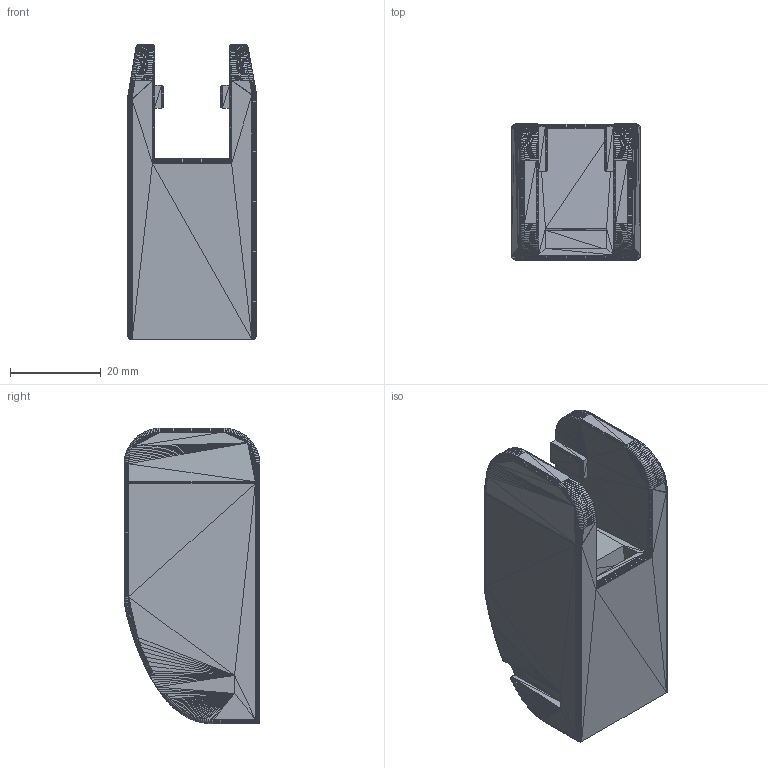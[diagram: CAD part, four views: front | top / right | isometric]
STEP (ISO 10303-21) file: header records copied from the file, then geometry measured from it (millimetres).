
FILE_DESCRIPTION((''),'2;1');
FILE_NAME('Index Finger P2', '2025-03-27T07:44:59', (''), (''), 'ImageToStl.com STEP Converter','', '');
FILE_SCHEMA(('AUTOMOTIVE_DESIGN_CC2'));
Length unit declared in the file: metre
Products named in the file (1): product0
Bounding box: 28.5 x 30 x 65.27 mm (x, y, z)
Surface area: 10675.7 mm2 (no closed solid volume)
Topology: 0 solids, 13254 shells, 13254 faces, 39762 edges, 6629 vertices
Faces by surface type: plane 13254
Entity records: 318135 total; most frequent: DIRECTION 66272, ORIENTED_EDGE 39762, EDGE_CURVE 39762, LINE 39762, VECTOR 39762, AXIS2_PLACEMENT_3D 13255, STYLED_ITEM 13255, FACE_SURFACE 13254
